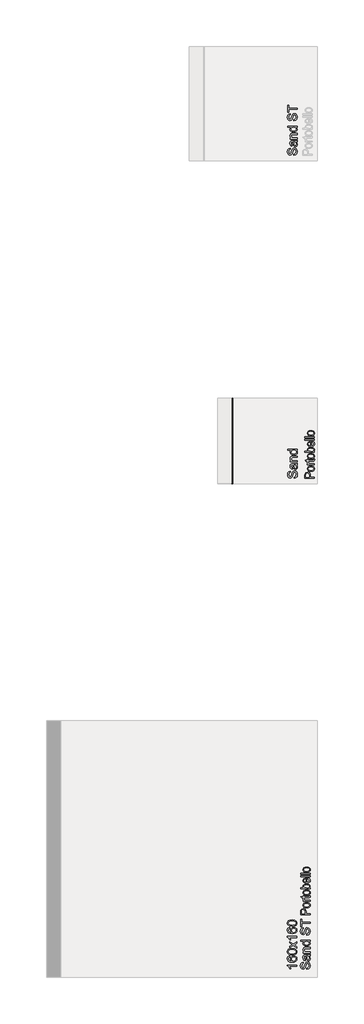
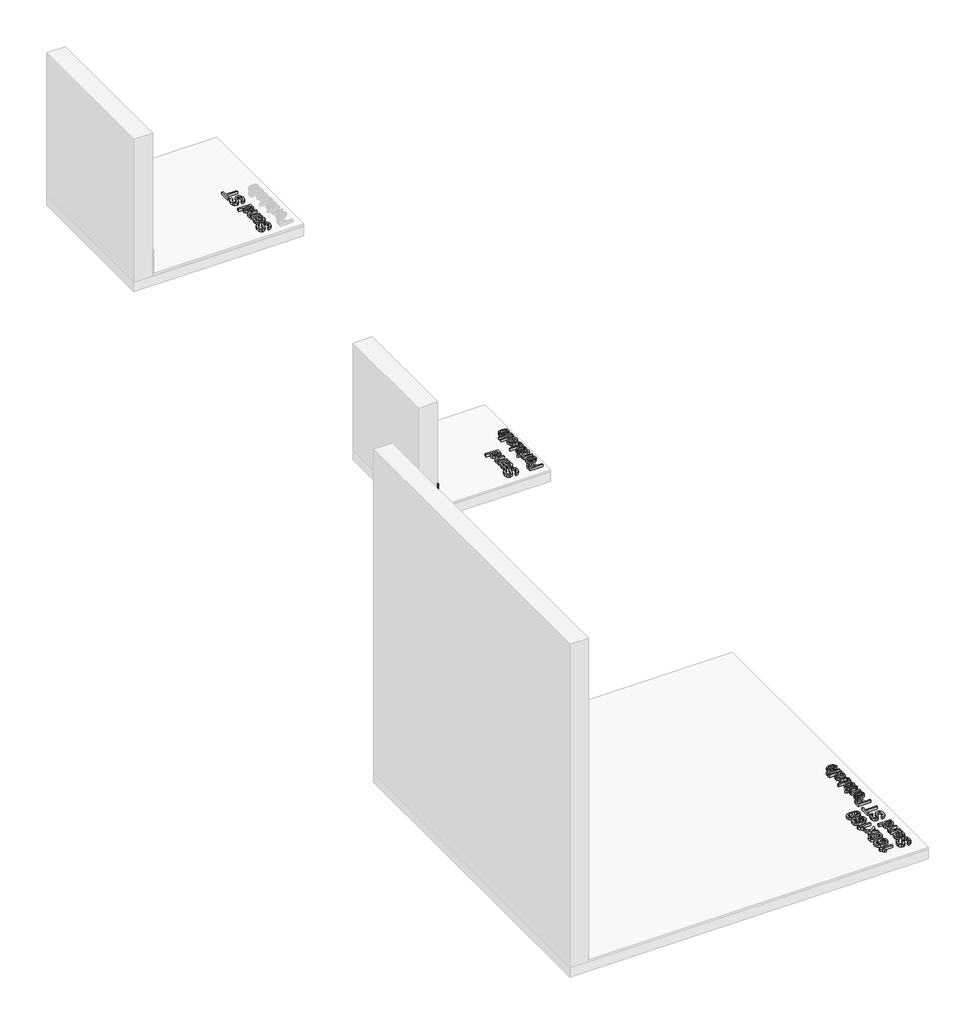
# One storey, part 11 of 19: 7 proxies.
"""IFC4 building model written with IfcOpenShell, lengths in millimetres."""

from ifc_helpers import new_model, si_unit, frame, origin, origin_with_axes, place, context, project, spatial, polyline, outline, extrude, element, save
from ifc_brep_helpers import plane_surface, extruded_surface, spline_curve, advanced_brep

model = new_model("IFC4")

# Units and contexts
model_context = context("Model", 3, world=origin())
ifc_project = project(units=[si_unit("LENGTHUNIT", "METRE", prefix="MILLI")], contexts=[model_context])

# Site, building, storey
site = spatial("IfcSite", under=ifc_project)
building = spatial("IfcBuilding", under=site)
storey = spatial("IfcBuildingStorey", under=building, Name="PORTOBELLO - SHOWROOM", Elevation=0.0)

# Proxies
placement = place(None, origin())
element("IfcBuildingElementProxy", 1, Name="RODAPE KALKS SAND 20X90 NAT RET", ObjectType="RODAPE KALKS SAND 20X90 NAT RET", at=placement, inside=storey, context=model_context, shape_type="AdvancedBrep", body=[
    advanced_brep(
    [(-7194.2033025, 15203.6967801, 217.0), (-7194.2033025, 15203.6967801, 17.0), (-7186.2033025, 15203.6967801, 17.0), (-7186.2033025, 15203.6967801, 209.0), (-7194.2033025, 16103.6967801, 217.0), (-7186.2033025, 16103.6967801, 209.0), (-7186.2033025, 16103.6967801, 17.0), (-7194.2033025, 16103.6967801, 17.0)],
    [
        (0, 1),
        (1, 2),
        (2, 3),
        (3, 0, spline_curve(3, [(-7186.2033025, 15203.6967801, 209.0), (-7186.2033025, 15203.6967801, 214.333333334), (-7188.869969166, 15203.6967801, 217.0), (-7194.2033025, 15203.6967801, 217.0)], [4, 4], [0.0, 0.029527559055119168])),
        (4, 5, spline_curve(3, [(-7194.2033025, 16103.6967801, 217.0), (-7188.869969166, 16103.6967801, 217.0), (-7186.2033025, 16103.6967801, 214.333333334), (-7186.2033025, 16103.6967801, 209.0)], [4, 4], [0.0, 0.029527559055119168])),
        (5, 6),
        (6, 7),
        (7, 4),
        (0, 4),
        (7, 1),
        (6, 2),
        (5, 3),
    ],
    [
        plane_surface(frame((-7394.2033025, 15203.6967801, 17.0), z_axis=(0.0, -1.0, 0.0), x_axis=(0.0, 0.0, 1.0))),
        plane_surface(frame((-7394.2033025, 16103.6967801, 17.0), z_axis=(0.0, 1.0, 0.0), x_axis=(0.0, 0.0, 1.0))),
        plane_surface(frame((-7194.2033025, 15203.6967801, 217.0), z_axis=(-1.0, 0.0, 0.0), x_axis=(0.0, 1.0, 0.0))),
        plane_surface(frame((-7194.2033025, 15203.6967801, 17.0), z_axis=(0.0, 0.0, -1.0), x_axis=(0.0, 1.0, 0.0))),
        plane_surface(frame((-7186.2033025, 15203.6967801, 17.0), z_axis=(1.0, 0.0, 0.0), x_axis=(0.0, 1.0, 0.0))),
        extruded_surface(spline_curve(3, [(-7186.2033025, 16103.6967801, 209.0), (-7186.2033025, 16103.6967801, 214.333333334), (-7188.869969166, 16103.6967801, 217.0), (-7194.2033025, 16103.6967801, 217.0)], [4, 4], [0.0, 0.029527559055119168]), (0.0, -900.0, 0.0), 900.0),
    ],
    [
        (0, [[1, 2, 3, 4]]),
        (1, [[5, 6, 7, 8]]),
        (2, [[-1, 9, -8, 10]]),
        (3, [[-2, -10, -7, 11]]),
        (4, [[-3, -11, -6, 12]]),
        (5, [[-4, -12, -5, -9]]),
    ],
),
])
element("IfcBuildingElementProxy", 2, Name="10mm Arial", ObjectType="10mm Arial", at=placement, inside=storey, context=model_context, shape_type="SweptSolid", body=[
    extrude(outline(polyline([(-6404.3068753, 10087.4843452), (-6404.3068753, 10100.0413839), (-6391.7375738, 10104.0880859), (-6383.7913227, 10113.9718488), (-6380.7624276, 10129.0304851), (-6383.0555587, 10142.1516096), (-6389.3586036, 10150.6251583), (-6397.7831013, 10153.4087987), (-6405.6189878, 10151.3241341), (-6411.3211587, 10142.7892718), (-6416.1158873, 10124.5055366), (-6422.3085676, 10104.8238499), (-6431.6527703, 10094.1430093), (-6444.1362326, 10090.6236049), (-6458.3487404, 10094.9768751), (-6468.3796561, 10107.6933294), (-6471.8009587, 10126.3081584), (-6468.2202406, 10146.1737861), (-6457.6988155, 10159.4175379), (-6441.9779916, 10164.3962076), (-6441.9779916, 10151.8391688), (-6449.4705216, 10149.533775), (-6454.8783869, 10144.7267836), (-6459.2439199, 10126.7986677), (-6454.9274378, 10108.8215009), (-6444.5041146, 10103.1806436), (-6435.7975741, 10107.1782946), (-6428.7832907, 10127.6815845), (-6422.4802459, 10149.901657), (-6412.3021773, 10162.0540256), (-6398.1019323, 10165.9658375), (-6383.0800842, 10161.4654144), (-6372.1172007, 10148.5159682), (-6368.2053888, 10129.5209945), (-6372.4237691, 10107.0924555), (-6385.1279606, 10092.9044732), (-6404.3068753, 10087.4843452)])), origin_with_axes(), (0.0, 0.0, 1.0), 20.0),
    extrude(outline(polyline([(-6379.1927978, 10230.3206612), (-6370.6824609, 10218.1437671), (-6368.2053888, 10204.6915488), (-6369.6953109, 10194.1977149), (-6374.1650772, 10186.4568646), (-6380.9525, 10181.6835957), (-6389.3953918, 10180.0925061), (-6399.3282056, 10182.4960018), (-6406.5386927, 10188.8113094), (-6410.6589711, 10197.603689), (-6412.547432, 10208.4684706), (-6416.8639141, 10230.2470848), (-6419.6598172, 10230.3206612), (-6428.9304435, 10226.8625704), (-6432.5602125, 10212.9811564), (-6430.1444541, 10200.2769649), (-6421.5728036, 10194.2191747), (-6423.1424335, 10181.6621359), (-6435.4051666, 10187.0945267), (-6442.5911283, 10198.0328847), (-6445.1172513, 10214.5998372), (-6442.8854339, 10229.8178891), (-6437.2813648, 10238.414065), (-6428.7587652, 10242.2645633), (-6417.7713563, 10242.8776999), (-6402.1486343, 10242.8776999), (-6380.3332319, 10243.515362), (-6369.7750187, 10246.0169596), (-6369.7750187, 10233.4599208), (-6379.1927978, 10230.3206612)]), holes=[polyline([(-6404.3068753, 10230.3206612), (-6400.4563771, 10210.062626), (-6398.4207634, 10199.259158), (-6395.1098254, 10194.3663275), (-6390.2783086, 10192.6495448), (-6383.4847544, 10196.3896785), (-6380.7624276, 10207.3648247), (-6383.7667972, 10220.0690162), (-6391.038598, 10228.260522), (-6400.7506827, 10230.2470848), (-6404.3068753, 10230.3206612)])]), origin_with_axes(), (0.0, 0.0, 1.0), 20.0),
    extrude(outline(polyline([(-6369.7750187, 10260.1436282), (-6443.5476215, 10260.1436282), (-6443.5476215, 10272.700667), (-6433.2469256, 10272.700667), (-6442.1496699, 10282.3023871), (-6445.1172513, 10295.4112488), (-6442.7260183, 10307.2693118), (-6436.4474989, 10315.3627157), (-6427.2136609, 10319.1273748), (-6415.073555, 10319.7895624), (-6369.7750187, 10319.7895624), (-6369.7750187, 10307.2325236), (-6413.3812978, 10307.2325236), (-6424.4913341, 10305.7855211), (-6430.3651833, 10300.6719614), (-6432.5602125, 10292.0512599), (-6427.6305938, 10278.4273634), (-6420.4875517, 10274.1323411), (-6408.917663, 10272.700667), (-6369.7750187, 10272.700667), (-6369.7750187, 10260.1436282)])), origin_with_axes(), (0.0, 0.0, 1.0), 20.0),
    extrude(outline(polyline([(-6369.7750187, 10382.5747562), (-6381.6208189, 10382.5747562), (-6371.5592464, 10374.2667545), (-6368.2053888, 10362.7827049), (-6373.0614312, 10347.2335592), (-6386.6117513, 10336.2461503), (-6406.5877437, 10332.3466011), (-6426.5759987, 10335.939582), (-6440.3347854, 10346.7062617), (-6445.1172513, 10362.7336539), (-6441.6959487, 10374.3096741), (-6432.8054672, 10382.5747562), (-6470.2313288, 10382.5747562), (-6470.2313288, 10395.131795), (-6369.7750187, 10395.131795), (-6369.7750187, 10382.5747562)]), holes=[polyline([(-6406.6367946, 10344.9036399), (-6395.278438, 10346.3199856), (-6387.2003625, 10350.5690226), (-6382.3719113, 10356.7433088), (-6380.7624276, 10363.9354018), (-6382.2983349, 10371.1244291), (-6386.9060569, 10377.1423654), (-6394.6714327, 10381.2166585), (-6405.6803014, 10382.5747562), (-6417.716174, 10381.1921331), (-6426.0609639, 10377.0442636), (-6430.9354004, 10370.8730431), (-6432.5602125, 10363.420367), (-6430.9997797, 10356.1546976), (-6426.3184813, 10350.2011406), (-6418.2771941, 10346.2280151), (-6406.6367946, 10344.9036399)])]), origin_with_axes(), (0.0, 0.0, 1.0), 20.0),
    extrude(outline(polyline([(-6404.3068753, 10450.0688396), (-6404.3068753, 10462.6258784), (-6391.7375738, 10466.6725803), (-6383.7913227, 10476.5563433), (-6380.7624276, 10491.6149796), (-6383.0555587, 10504.7361041), (-6389.3586036, 10513.2096527), (-6397.7831013, 10515.9932931), (-6405.6189878, 10513.9086285), (-6411.3211587, 10505.3737662), (-6416.1158873, 10487.0900311), (-6422.3085676, 10467.4083443), (-6431.6527703, 10456.7275037), (-6444.1362326, 10453.2080993), (-6458.3487404, 10457.5613696), (-6468.3796561, 10470.2778239), (-6471.8009587, 10488.8926528), (-6468.2202406, 10508.7582806), (-6457.6988155, 10522.0020324), (-6441.9779916, 10526.9807021), (-6441.9779916, 10514.4236633), (-6449.4705216, 10512.1182695), (-6454.8783869, 10507.3112781), (-6459.2439199, 10489.3831622), (-6454.9274378, 10471.4059953), (-6444.5041146, 10465.7651381), (-6435.7975741, 10469.7627891), (-6428.7832907, 10490.2660789), (-6422.4802459, 10512.4861515), (-6412.3021773, 10524.63852), (-6398.1019323, 10528.5503319), (-6383.0800842, 10524.0499088), (-6372.1172007, 10511.1004626), (-6368.2053888, 10492.1054889), (-6372.4237691, 10469.6769499), (-6385.1279606, 10455.4889677), (-6404.3068753, 10450.0688396)])), origin_with_axes(), (0.0, 0.0, 1.0), 20.0),
    extrude(outline(polyline([(-6369.7750187, 10572.4999676), (-6457.6742901, 10572.4999676), (-6457.6742901, 10539.5377408), (-6470.2313288, 10539.5377408), (-6470.2313288, 10618.0192331), (-6457.6742901, 10618.0192331), (-6457.6742901, 10585.0570064), (-6369.7750187, 10585.0570064), (-6369.7750187, 10572.4999676)])), origin_with_axes(), (0.0, 0.0, 1.0), 20.0),
])
element("IfcBuildingElementProxy", 3, Name="10mm Arial", ObjectType="10mm Arial", at=placement, inside=storey, context=model_context, shape_type="SweptSolid", body=[
    extrude(outline(polyline([(-6509.7750187, 10134.5732405), (-6509.7750187, 10122.0162018), (-6588.0603073, 10122.0162018), (-6579.5867586, 10110.1213506), (-6573.2469256, 10096.9021242), (-6585.1172513, 10096.9021242), (-6596.8649497, 10115.3084867), (-6610.2313288, 10126.4798366), (-6610.2313288, 10134.5732405), (-6509.7750187, 10134.5732405)])), origin_with_axes(), (0.0, 0.0, 1.0), 20.0),
    extrude(outline(polyline([(-6583.5476215, 10228.7510313), (-6581.9779916, 10216.1939925), (-6592.4503657, 10211.4360521), (-6597.6742901, 10198.8544878), (-6594.6331322, 10187.5237224), (-6583.2165277, 10178.9520719), (-6560.8370396, 10175.3836165), (-6570.8556926, 10186.4568646), (-6574.1298424, 10200.178863), (-6571.8918936, 10211.7794086), (-6565.1780472, 10221.5160187), (-6554.9202709, 10228.1195005), (-6542.0505324, 10230.3206612), (-6524.7232904, 10226.1758573), (-6512.4605573, 10214.7715155), (-6508.2053888, 10198.3149276), (-6511.0258175, 10184.0686973), (-6519.4871034, 10172.7226034), (-6534.4231124, 10165.3005842), (-6556.6677103, 10162.8265778), (-6581.6775546, 10165.57343), (-6598.7779361, 10173.8139867), (-6607.3679806, 10185.0650444), (-6610.2313288, 10199.6393028), (-6608.4593639, 10210.6573685), (-6603.1434691, 10219.480405), (-6594.7005773, 10225.6608225), (-6583.5476215, 10228.7510313)]), holes=[polyline([(-6542.2467361, 10175.3836165), (-6531.3696918, 10178.2898843), (-6523.4724916, 10186.0154062), (-6520.7624276, 10197.3339089), (-6522.1665106, 10205.6204509), (-6526.3787594, 10212.1350279), (-6533.0006353, 10216.3564738), (-6541.6335995, 10217.7636224), (-6549.9201414, 10216.3748679), (-6556.2385147, 10212.2086043), (-6560.2392314, 10205.5836627), (-6561.5728036, 10196.8188741), (-6556.2385147, 10181.6253477), (-6550.0734256, 10176.9440493), (-6542.2467361, 10175.3836165)])]), origin_with_axes(), (0.0, 0.0, 1.0), 20.0),
    extrude(outline(polyline([(-6559.1938334, 10241.3080701), (-6588.0970955, 10244.9991528), (-6604.7621498, 10255.9620362), (-6610.2313288, 10274.2702968), (-6606.9939673, 10288.9365257), (-6597.6620273, 10299.0655433), (-6582.7995947, 10304.9516552), (-6559.1938334, 10307.2325236), (-6530.4131986, 10303.5782291), (-6513.711356, 10292.6521339), (-6509.5818806, 10284.4207742), (-6508.2053888, 10274.2702968), (-6510.5966218, 10261.2227487), (-6517.7703207, 10251.3144603), (-6534.7603375, 10243.8096676), (-6559.1938334, 10241.3080701)]), holes=[polyline([(-6559.2183588, 10253.8651088), (-6539.4661614, 10255.3366368), (-6528.0342284, 10259.7512208), (-6522.5803778, 10266.3240457), (-6520.7624276, 10274.2702968), (-6522.5865092, 10282.2165479), (-6528.0587538, 10288.7893729), (-6539.4968182, 10293.2039569), (-6559.2183588, 10294.6754848), (-6578.5260322, 10293.2530078), (-6590.04687, 10288.9855766), (-6595.7674351, 10282.4250144), (-6597.6742901, 10274.123144), (-6595.9942956, 10266.2627321), (-6590.9543123, 10259.9474245), (-6578.7161046, 10255.3856878), (-6559.2183588, 10253.8651088)])]), origin_with_axes(), (0.0, 0.0, 1.0), 20.0),
    extrude(outline(polyline([(-6509.7750187, 10313.511043), (-6546.8820493, 10340.3419032), (-6583.5476215, 10315.0806728), (-6583.5476215, 10330.1393092), (-6565.8647602, 10342.328466), (-6557.5506271, 10348.0428996), (-6564.3687068, 10352.9970438), (-6583.5476215, 10366.8784578), (-6583.5476215, 10381.986145), (-6546.8575238, 10355.4495904), (-6509.7750187, 10381.0051264), (-6509.7750187, 10365.9219646), (-6532.0931931, 10350.5199717), (-6536.1889459, 10347.7240685), (-6509.7750187, 10328.6187303), (-6509.7750187, 10313.511043)])), origin_with_axes(), (0.0, 0.0, 1.0), 20.0),
    extrude(outline(polyline([(-6509.7750187, 10435.942171), (-6509.7750187, 10423.3851322), (-6588.0603073, 10423.3851322), (-6579.5867586, 10411.490281), (-6573.2469256, 10398.2710547), (-6585.1172513, 10398.2710547), (-6596.8649497, 10416.6774172), (-6610.2313288, 10427.8487671), (-6610.2313288, 10435.942171), (-6509.7750187, 10435.942171)])), origin_with_axes(), (0.0, 0.0, 1.0), 20.0),
    extrude(outline(polyline([(-6583.5476215, 10530.1199618), (-6581.9779916, 10517.562923), (-6592.4503657, 10512.8049825), (-6597.6742901, 10500.2234183), (-6594.6331322, 10488.8926528), (-6583.2165277, 10480.3210023), (-6560.8370396, 10476.752547), (-6570.8556926, 10487.825795), (-6574.1298424, 10501.5477935), (-6571.8918936, 10513.148339), (-6565.1780472, 10522.8849492), (-6554.9202709, 10529.488431), (-6542.0505324, 10531.6895916), (-6524.7232904, 10527.5447878), (-6512.4605573, 10516.1404459), (-6508.2053888, 10499.683858), (-6511.0258175, 10485.4376278), (-6519.4871034, 10474.0915339), (-6534.4231124, 10466.6695146), (-6556.6677103, 10464.1955082), (-6581.6775546, 10466.9423605), (-6598.7779361, 10475.1829171), (-6607.3679806, 10486.4339748), (-6610.2313288, 10501.0082332), (-6608.4593639, 10512.026299), (-6603.1434691, 10520.8493355), (-6594.7005773, 10527.029753), (-6583.5476215, 10530.1199618)]), holes=[polyline([(-6542.2467361, 10476.752547), (-6531.3696918, 10479.6588148), (-6523.4724916, 10487.3843366), (-6520.7624276, 10498.7028394), (-6522.1665106, 10506.9893813), (-6526.3787594, 10513.5039583), (-6533.0006353, 10517.7254042), (-6541.6335995, 10519.1325528), (-6549.9201414, 10517.7437983), (-6556.2385147, 10513.5775347), (-6560.2392314, 10506.9525931), (-6561.5728036, 10498.1878046), (-6556.2385147, 10482.9942782), (-6550.0734256, 10478.3129798), (-6542.2467361, 10476.752547)])]), origin_with_axes(), (0.0, 0.0, 1.0), 20.0),
    extrude(outline(polyline([(-6559.1938334, 10542.6770005), (-6588.0970955, 10546.3680832), (-6604.7621498, 10557.3309667), (-6610.2313288, 10575.6392273), (-6606.9939673, 10590.3054562), (-6597.6620273, 10600.4344738), (-6582.7995947, 10606.3205857), (-6559.1938334, 10608.6014541), (-6530.4131986, 10604.9471596), (-6513.711356, 10594.0210643), (-6509.5818806, 10585.7897047), (-6508.2053888, 10575.6392273), (-6510.5966218, 10562.5916792), (-6517.7703207, 10552.6833908), (-6534.7603375, 10545.1785981), (-6559.1938334, 10542.6770005)]), holes=[polyline([(-6559.2183588, 10555.2340393), (-6539.4661614, 10556.7055673), (-6528.0342284, 10561.1201512), (-6522.5803778, 10567.6929762), (-6520.7624276, 10575.6392273), (-6522.5865092, 10583.5854784), (-6528.0587538, 10590.1583034), (-6539.4968182, 10594.5728873), (-6559.2183588, 10596.0444153), (-6578.5260322, 10594.6219382), (-6590.04687, 10590.3545071), (-6595.7674351, 10583.7939449), (-6597.6742901, 10575.4920745), (-6595.9942956, 10567.6316625), (-6590.9543123, 10561.3163549), (-6578.7161046, 10556.7546182), (-6559.2183588, 10555.2340393)])]), origin_with_axes(), (0.0, 0.0, 1.0), 20.0),
])
element("IfcBuildingElementProxy", 4, Name="10mm Arial", ObjectType="10mm Arial", at=placement, inside=storey, context=model_context, shape_type="SweptSolid", body=[
    extrude(outline(polyline([(-6541.491456, 18657.8639469), (-6541.491456, 18670.4209856), (-6528.9221544, 18674.4676876), (-6520.9759034, 18684.3514505), (-6517.9470083, 18699.4100868), (-6520.2401394, 18712.5312113), (-6526.5431842, 18721.00476), (-6534.9676819, 18723.7884004), (-6542.8035684, 18721.7037357), (-6548.5057393, 18713.1688735), (-6553.300468, 18694.8851383), (-6559.4931482, 18675.2034516), (-6568.8373509, 18664.522611), (-6581.3208133, 18661.0032065), (-6595.533321, 18665.3564768), (-6605.5642368, 18678.0729311), (-6608.9855393, 18696.6877601), (-6605.4048212, 18716.5533878), (-6594.8833962, 18729.7971396), (-6579.1625723, 18734.7758093), (-6579.1625723, 18722.2187705), (-6586.6551022, 18719.9133767), (-6592.0629676, 18715.1063853), (-6596.4285006, 18697.1782694), (-6592.1120185, 18679.2011026), (-6581.6886953, 18673.5602453), (-6572.9821547, 18677.5578963), (-6565.9678714, 18698.0611862), (-6559.6648265, 18720.2812587), (-6549.486758, 18732.4336273), (-6535.286513, 18736.3454392), (-6520.2646648, 18731.8450161), (-6509.3017814, 18718.8955698), (-6505.3899695, 18699.9005962), (-6509.6083497, 18677.4720572), (-6522.3125413, 18663.2840749), (-6541.491456, 18657.8639469)])), frame((0.0, 0.0, 18.0), z_axis=(0.0, 0.0, 1.0), x_axis=(1.0, 0.0, 0.0)), (0.0, 0.0, 1.0), 20.0),
    extrude(outline(polyline([(-6516.3773784, 18800.7002628), (-6507.8670416, 18788.5233688), (-6505.3899695, 18775.0711505), (-6506.8798916, 18764.5773166), (-6511.3496578, 18756.8364663), (-6518.1370806, 18752.0631974), (-6526.5799724, 18750.4721078), (-6536.5127863, 18752.8756035), (-6543.7232734, 18759.1909111), (-6547.8435517, 18767.9832907), (-6549.7320126, 18778.8480723), (-6554.0484947, 18800.6266864), (-6556.8443979, 18800.7002628), (-6566.1150242, 18797.2421721), (-6569.7447932, 18783.3607581), (-6567.3290347, 18770.6565666), (-6558.7573843, 18764.5987764), (-6560.3270141, 18752.0417376), (-6572.5897473, 18757.4741284), (-6579.7757089, 18768.4124864), (-6582.3018319, 18784.9794389), (-6580.0700145, 18800.1974908), (-6574.4659455, 18808.7936667), (-6565.9433459, 18812.644165), (-6554.955937, 18813.2573016), (-6539.3332149, 18813.2573016), (-6517.5178126, 18813.8949637), (-6506.9595993, 18816.3965613), (-6506.9595993, 18803.8395225), (-6516.3773784, 18800.7002628)]), holes=[polyline([(-6541.491456, 18800.7002628), (-6537.6409577, 18780.4422276), (-6535.605344, 18769.6387597), (-6532.2944061, 18764.7459292), (-6527.4628892, 18763.0291465), (-6520.669335, 18766.7692802), (-6517.9470083, 18777.7444263), (-6520.9513779, 18790.4486179), (-6528.2231787, 18798.6401237), (-6537.9352633, 18800.6266864), (-6541.491456, 18800.7002628)])]), frame((0.0, 0.0, 18.0), z_axis=(0.0, 0.0, 1.0), x_axis=(1.0, 0.0, 0.0)), (0.0, 0.0, 1.0), 20.0),
    extrude(outline(polyline([(-6506.9595993, 18830.5232299), (-6580.7322021, 18830.5232299), (-6580.7322021, 18843.0802687), (-6570.4315062, 18843.0802687), (-6579.3342505, 18852.6819888), (-6582.3018319, 18865.7908505), (-6579.910599, 18877.6489135), (-6573.6320796, 18885.7423174), (-6564.3982415, 18889.5069765), (-6552.2581357, 18890.1691641), (-6506.9595993, 18890.1691641), (-6506.9595993, 18877.6121253), (-6550.5658785, 18877.6121253), (-6561.6759148, 18876.1651228), (-6567.5497639, 18871.0515631), (-6569.7447932, 18862.4308616), (-6564.8151744, 18848.8069651), (-6557.6721324, 18844.5119428), (-6546.1022436, 18843.0802687), (-6506.9595993, 18843.0802687), (-6506.9595993, 18830.5232299)])), frame((0.0, 0.0, 18.0), z_axis=(0.0, 0.0, 1.0), x_axis=(1.0, 0.0, 0.0)), (0.0, 0.0, 1.0), 20.0),
    extrude(outline(polyline([(-6506.9595993, 18952.9543579), (-6518.8053996, 18952.9543579), (-6508.743827, 18944.6463562), (-6505.3899695, 18933.1623066), (-6510.2460118, 18917.6131609), (-6523.796332, 18906.625752), (-6543.7723243, 18902.7262028), (-6563.7605794, 18906.3191837), (-6577.519366, 18917.0858634), (-6582.3018319, 18933.1132556), (-6578.8805294, 18944.6892758), (-6569.9900478, 18952.9543579), (-6607.4159095, 18952.9543579), (-6607.4159095, 18965.5113967), (-6506.9595993, 18965.5113967), (-6506.9595993, 18952.9543579)]), holes=[polyline([(-6543.8213753, 18915.2832416), (-6532.4630187, 18916.6995873), (-6524.3849432, 18920.9486243), (-6519.556492, 18927.1229105), (-6517.9470083, 18934.3150035), (-6519.4829156, 18941.5040308), (-6524.0906376, 18947.5219671), (-6531.8560134, 18951.5962602), (-6542.8648821, 18952.9543579), (-6554.9007547, 18951.5717347), (-6563.2455446, 18947.4238653), (-6568.119981, 18941.2526448), (-6569.7447932, 18933.7999687), (-6568.1843604, 18926.5342993), (-6563.503062, 18920.5807423), (-6555.4617747, 18916.6076168), (-6543.8213753, 18915.2832416)])]), frame((0.0, 0.0, 18.0), z_axis=(0.0, 0.0, 1.0), x_axis=(1.0, 0.0, 0.0)), (0.0, 0.0, 1.0), 20.0),
    extrude(outline(polyline([(-6541.491456, 19020.4484413), (-6541.491456, 19033.0054801), (-6528.9221544, 19037.052182), (-6520.9759034, 19046.9359449), (-6517.9470083, 19061.9945813), (-6520.2401394, 19075.1157058), (-6526.5431842, 19083.5892544), (-6534.9676819, 19086.3728948), (-6542.8035684, 19084.2882302), (-6548.5057393, 19075.7533679), (-6553.300468, 19057.4696327), (-6559.4931482, 19037.787946), (-6568.8373509, 19027.1071054), (-6581.3208133, 19023.587701), (-6595.533321, 19027.9409713), (-6605.5642368, 19040.6574256), (-6608.9855393, 19059.2722545), (-6605.4048212, 19079.1378823), (-6594.8833962, 19092.3816341), (-6579.1625723, 19097.3603038), (-6579.1625723, 19084.803265), (-6586.6551022, 19082.4978711), (-6592.0629676, 19077.6908797), (-6596.4285006, 19059.7627638), (-6592.1120185, 19041.785597), (-6581.6886953, 19036.1447398), (-6572.9821547, 19040.1423908), (-6565.9678714, 19060.6456806), (-6559.6648265, 19082.8657531), (-6549.486758, 19095.0181217), (-6535.286513, 19098.9299336), (-6520.2646648, 19094.4295105), (-6509.3017814, 19081.4800643), (-6505.3899695, 19062.4850906), (-6509.6083497, 19040.0565516), (-6522.3125413, 19025.8685694), (-6541.491456, 19020.4484413)])), frame((0.0, 0.0, 18.0), z_axis=(0.0, 0.0, 1.0), x_axis=(1.0, 0.0, 0.0)), (0.0, 0.0, 1.0), 20.0),
    extrude(outline(polyline([(-6506.9595993, 19142.8795693), (-6594.8588707, 19142.8795693), (-6594.8588707, 19109.9173425), (-6607.4159095, 19109.9173425), (-6607.4159095, 19188.3988348), (-6594.8588707, 19188.3988348), (-6594.8588707, 19155.4366081), (-6506.9595993, 19155.4366081), (-6506.9595993, 19142.8795693)])), frame((0.0, 0.0, 18.0), z_axis=(0.0, 0.0, 1.0), x_axis=(1.0, 0.0, 0.0)), (0.0, 0.0, 1.0), 20.0),
])
element("IfcBuildingElementProxy", 5, Name="10mm Arial", ObjectType="10mm Arial", at=placement, inside=storey, context=model_context, shape_type="SweptSolid", body=[
    extrude(outline(polyline([(-6538.7351592, 15257.8639469), (-6538.7351592, 15270.4209856), (-6526.1658577, 15274.4676876), (-6518.2196066, 15284.3514505), (-6515.1907115, 15299.4100868), (-6517.4838426, 15312.5312113), (-6523.7868874, 15321.00476), (-6532.2113851, 15323.7884004), (-6540.0472716, 15321.7037357), (-6545.7494425, 15313.1688735), (-6550.5441712, 15294.8851383), (-6556.7368515, 15275.2034516), (-6566.0810541, 15264.522611), (-6578.5645165, 15261.0032065), (-6592.7770243, 15265.3564768), (-6602.80794, 15278.0729311), (-6606.2292425, 15296.6877601), (-6602.6485245, 15316.5533878), (-6592.1270994, 15329.7971396), (-6576.4062755, 15334.7758093), (-6576.4062755, 15322.2187705), (-6583.8988054, 15319.9133767), (-6589.3066708, 15315.1063853), (-6593.6722038, 15297.1782694), (-6589.3557217, 15279.2011026), (-6578.9323985, 15273.5602453), (-6570.2258579, 15277.5578963), (-6563.2115746, 15298.0611862), (-6556.9085297, 15320.2812587), (-6546.7304612, 15332.4336273), (-6532.5302162, 15336.3454392), (-6517.508368, 15331.8450161), (-6506.5454846, 15318.8955698), (-6502.6336727, 15299.9005962), (-6506.8520529, 15277.4720572), (-6519.5562445, 15263.2840749), (-6538.7351592, 15257.8639469)])), frame((0.0, 0.0, 17.0), z_axis=(0.0, 0.0, 1.0), x_axis=(1.0, 0.0, 0.0)), (0.0, 0.0, 1.0), 20.0),
    extrude(outline(polyline([(-6513.6210816, 15400.7002628), (-6505.1107448, 15388.5233688), (-6502.6336727, 15375.0711505), (-6504.1235948, 15364.5773166), (-6508.593361, 15356.8364663), (-6515.3807838, 15352.0631974), (-6523.8236756, 15350.4721078), (-6533.7564895, 15352.8756035), (-6540.9669766, 15359.1909111), (-6545.0872549, 15367.9832907), (-6546.9757159, 15378.8480723), (-6551.2921979, 15400.6266864), (-6554.0881011, 15400.7002628), (-6563.3587274, 15397.2421721), (-6566.9884964, 15383.3607581), (-6564.572738, 15370.6565666), (-6556.0010875, 15364.5987764), (-6557.5707173, 15352.0417376), (-6569.8334505, 15357.4741284), (-6577.0194121, 15368.4124864), (-6579.5455352, 15384.9794389), (-6577.3137177, 15400.1974908), (-6571.7096487, 15408.7936667), (-6563.1870491, 15412.644165), (-6552.1996402, 15413.2573016), (-6536.5769181, 15413.2573016), (-6514.7615158, 15413.8949637), (-6504.2033025, 15416.3965613), (-6504.2033025, 15403.8395225), (-6513.6210816, 15400.7002628)]), holes=[polyline([(-6538.7351592, 15400.7002628), (-6534.8846609, 15380.4422276), (-6532.8490472, 15369.6387597), (-6529.5381093, 15364.7459292), (-6524.7065924, 15363.0291465), (-6517.9130382, 15366.7692802), (-6515.1907115, 15377.7444263), (-6518.1950811, 15390.4486179), (-6525.4668819, 15398.6401237), (-6535.1789665, 15400.6266864), (-6538.7351592, 15400.7002628)])]), frame((0.0, 0.0, 17.0), z_axis=(0.0, 0.0, 1.0), x_axis=(1.0, 0.0, 0.0)), (0.0, 0.0, 1.0), 20.0),
    extrude(outline(polyline([(-6504.2033025, 15430.5232299), (-6577.9759053, 15430.5232299), (-6577.9759053, 15443.0802687), (-6567.6752094, 15443.0802687), (-6576.5779537, 15452.6819888), (-6579.5455352, 15465.7908505), (-6577.1543022, 15477.6489135), (-6570.8757828, 15485.7423174), (-6561.6419447, 15489.5069765), (-6549.5018389, 15490.1691641), (-6504.2033025, 15490.1691641), (-6504.2033025, 15477.6121253), (-6547.8095817, 15477.6121253), (-6558.919618, 15476.1651228), (-6564.7934672, 15471.0515631), (-6566.9884964, 15462.4308616), (-6562.0588777, 15448.8069651), (-6554.9158356, 15444.5119428), (-6543.3459468, 15443.0802687), (-6504.2033025, 15443.0802687), (-6504.2033025, 15430.5232299)])), frame((0.0, 0.0, 17.0), z_axis=(0.0, 0.0, 1.0), x_axis=(1.0, 0.0, 0.0)), (0.0, 0.0, 1.0), 20.0),
    extrude(outline(polyline([(-6504.2033025, 15552.9543579), (-6516.0491028, 15552.9543579), (-6505.9875302, 15544.6463562), (-6502.6336727, 15533.1623066), (-6507.489715, 15517.6131609), (-6521.0400352, 15506.625752), (-6541.0160275, 15502.7262028), (-6561.0042826, 15506.3191837), (-6574.7630692, 15517.0858634), (-6579.5455352, 15533.1132556), (-6576.1242326, 15544.6892758), (-6567.2337511, 15552.9543579), (-6604.6596127, 15552.9543579), (-6604.6596127, 15565.5113967), (-6504.2033025, 15565.5113967), (-6504.2033025, 15552.9543579)]), holes=[polyline([(-6541.0650785, 15515.2832416), (-6529.7067219, 15516.6995873), (-6521.6286464, 15520.9486243), (-6516.8001952, 15527.1229105), (-6515.1907115, 15534.3150035), (-6516.7266188, 15541.5040308), (-6521.3343408, 15547.5219671), (-6529.0997166, 15551.5962602), (-6540.1085853, 15552.9543579), (-6552.1444579, 15551.5717347), (-6560.4892478, 15547.4238653), (-6565.3636842, 15541.2526448), (-6566.9884964, 15533.7999687), (-6565.4280636, 15526.5342993), (-6560.7467652, 15520.5807423), (-6552.7054779, 15516.6076168), (-6541.0650785, 15515.2832416)])]), frame((0.0, 0.0, 17.0), z_axis=(0.0, 0.0, 1.0), x_axis=(1.0, 0.0, 0.0)), (0.0, 0.0, 1.0), 20.0),
])
element("IfcBuildingElementProxy", 6, Name="10mm Arial Narrow", ObjectType="10mm Arial Narrow", at=placement, inside=storey, context=model_context, shape_type="SweptSolid", body=[
    extrude(outline(polyline([(-6369.7750187, 10664.5071343), (-6470.4936224, 10664.5071343), (-6470.4936224, 10695.804019), (-6468.6153017, 10712.0997205), (-6459.1348585, 10723.5727066), (-6442.1157497, 10727.8623851), (-6430.0399242, 10726.0760767), (-6420.4135304, 10720.7171515), (-6414.112272, 10710.9733626), (-6412.0118525, 10696.0324634), (-6412.0118525, 10674.254096), (-6369.7750187, 10674.254096), (-6369.7750187, 10664.5071343)]), holes=[polyline([(-6423.3833078, 10674.254096), (-6423.3833078, 10697.2254509), (-6427.914122, 10713.0896463), (-6441.5827127, 10718.1154234), (-6451.7484892, 10715.6406089), (-6457.548439, 10709.6629801), (-6459.1221672, 10696.9970065), (-6459.1221672, 10674.254096), (-6423.3833078, 10674.254096)])]), origin_with_axes(), (0.0, 0.0, 1.0), 20.0),
    extrude(outline(polyline([(-6406.3261249, 10735.9848531), (-6422.9169004, 10737.939322), (-6434.8689853, 10743.8027286), (-6442.0935398, 10752.6612953), (-6444.5017247, 10763.6012445), (-6442.0935398, 10774.4142801), (-6434.8689853, 10783.2982295), (-6423.1072708, 10789.2377842), (-6407.0876063, 10791.2176358), (-6389.9257197, 10789.2726855), (-6377.7832645, 10783.4378344), (-6370.5587099, 10774.5887862), (-6368.1505251, 10763.6012445), (-6370.5650556, 10752.7406163), (-6377.8086472, 10743.8661854), (-6389.7670777, 10737.9551862), (-6406.3261249, 10735.9848531)]), holes=[polyline([(-6406.3515076, 10745.7318148), (-6393.7997562, 10747.0358516), (-6384.9284981, 10750.9479622), (-6379.6552396, 10756.789159), (-6377.8974867, 10763.8804543), (-6379.6711038, 10770.6005275), (-6384.9919549, 10776.2926008), (-6393.8790772, 10780.1761558), (-6406.3515076, 10781.4706742), (-6418.8651849, 10780.1666373), (-6427.7237516, 10776.2545267), (-6432.9970102, 10770.41333), (-6434.754763, 10763.3220346), (-6432.9874917, 10756.5543689), (-6427.6856776, 10750.8718141), (-6418.8175923, 10747.0168146), (-6406.3515076, 10745.7318148)])]), origin_with_axes(), (0.0, 0.0, 1.0), 20.0),
    extrude(outline(polyline([(-6377.8974867, 10862.6953546), (-6368.1505251, 10864.3198482), (-6368.1505251, 10856.9588616), (-6370.2699816, 10848.6840972), (-6376.0699314, 10844.3690361), (-6390.7157566, 10843.2014313), (-6433.1302694, 10843.2014313), (-6433.1302694, 10835.0789633), (-6436.3792567, 10835.0789633), (-6431.5057758, 10833.4544697), (-6433.1302694, 10825.8904213), (-6430.8077512, 10819.8112616), (-6424.3224681, 10815.9403979), (-6408.9151616, 10813.9605463), (-6369.7750187, 10813.9605463), (-6369.7750187, 10804.2135847), (-6442.8772311, 10804.2135847), (-6442.8772311, 10813.9605463), (-6433.1810349, 10813.9605463), (-6442.268046, 10820.2046937), (-6444.5017247, 10826.6011372), (-6442.8772311, 10835.0789633), (-6442.8772311, 10843.2014313), (-6459.1221672, 10843.2014313), (-6467.2446352, 10852.948393), (-6442.8772311, 10852.948393), (-6442.8772311, 10862.6953546), (-6433.1302694, 10862.6953546), (-6433.1302694, 10852.948393), (-6388.4820779, 10852.948393), (-6380.4865234, 10853.8114052), (-6377.8974867, 10858.4310589), (-6377.8974867, 10862.6953546)])), origin_with_axes(), (0.0, 0.0, 1.0), 20.0),
    extrude(outline(polyline([(-6406.3261249, 10869.193329), (-6422.9169004, 10871.1477979), (-6434.8689853, 10877.0112045), (-6442.0935398, 10885.8697713), (-6444.5017247, 10896.8097204), (-6442.0935398, 10907.622756), (-6434.8689853, 10916.5067054), (-6423.1072708, 10922.4462602), (-6407.0876063, 10924.4261118), (-6389.9257197, 10922.4811614), (-6377.7832645, 10916.6463103), (-6370.5587099, 10907.7972621), (-6368.1505251, 10896.8097204), (-6370.5650556, 10885.9490922), (-6377.8086472, 10877.0746613), (-6389.7670777, 10871.1636621), (-6406.3261249, 10869.193329)]), holes=[polyline([(-6406.3515076, 10878.9402907), (-6393.7997562, 10880.2443276), (-6384.9284981, 10884.1564381), (-6379.6552396, 10889.9976349), (-6377.8974867, 10897.0889302), (-6379.6711038, 10903.8090034), (-6384.9919549, 10909.5010767), (-6393.8790772, 10913.3846318), (-6406.3515076, 10914.6791501), (-6418.8651849, 10913.3751132), (-6427.7237516, 10909.4630027), (-6432.9970102, 10903.6218059), (-6434.754763, 10896.5305106), (-6432.9874917, 10889.7628448), (-6427.6856776, 10884.08029), (-6418.8175923, 10880.2252905), (-6406.3515076, 10878.9402907)])]), origin_with_axes(), (0.0, 0.0, 1.0), 20.0),
    extrude(outline(polyline([(-6369.7750187, 10947.1690223), (-6369.7750187, 10937.4220606), (-6470.4936224, 10937.4220606), (-6470.4936224, 10947.1690223), (-6435.0847383, 10947.1690223), (-6442.1665151, 10954.568083), (-6444.5017247, 10963.7693163), (-6440.3008858, 10976.651043), (-6427.5714554, 10985.9284245), (-6406.8845446, 10989.4058561), (-6390.4302011, 10987.4735971), (-6378.227462, 10981.6768201), (-6370.6697593, 10973.3036978), (-6368.1505251, 10963.6424028), (-6370.7649445, 10954.3015645), (-6378.5320545, 10947.1690223), (-6369.7750187, 10947.1690223)]), holes=[polyline([(-6406.8845446, 10947.1690223), (-6389.6369913, 10949.2504047), (-6380.9053382, 10955.139194), (-6377.8974867, 10963.5916374), (-6379.686968, 10969.534365), (-6385.0554117, 10974.7727223), (-6406.4784212, 10979.6588945), (-6427.914122, 10974.9504013), (-6433.0446028, 10969.7056983), (-6434.754763, 10963.3885757), (-6432.9652818, 10957.4109468), (-6427.5968381, 10952.1186512), (-6406.8845446, 10947.1690223)])]), origin_with_axes(), (0.0, 0.0, 1.0), 20.0),
    extrude(outline(polyline([(-6392.5179292, 11041.3896516), (-6390.8934356, 11051.1366132), (-6381.006869, 11047.4370829), (-6373.8870181, 11041.618096), (-6369.5846483, 11033.9144427), (-6368.1505251, 11024.5609131), (-6370.5650556, 11012.9673591), (-6377.8086472, 11003.8232369), (-6389.6147815, 10997.8836821), (-6405.7169398, 10995.9038305), (-6422.3838635, 10997.8932006), (-6434.5643927, 11003.861311), (-6442.0173917, 11012.8753468), (-6444.5017247, 11024.0024934), (-6442.1030584, 11034.6854426), (-6434.9070593, 11043.43296), (-6423.1675547, 11049.267811), (-6407.1383717, 11051.2127614), (-6403.8893845, 11051.1366132), (-6403.8893845, 11005.6507922), (-6384.4462266, 11011.6538037), (-6379.5346717, 11017.58384), (-6377.8974867, 11024.6878267), (-6381.5525974, 11034.8662944), (-6392.5179292, 11041.3896516)]), holes=[polyline([(-6413.6363461, 11006.3107427), (-6413.6363461, 11041.3896516), (-6427.9014306, 11037.1253559), (-6433.0414299, 11031.3000233), (-6434.754763, 11024.0786416), (-6429.0436527, 11011.8695568), (-6413.6363461, 11006.3107427)])]), origin_with_axes(), (0.0, 0.0, 1.0), 20.0),
    extrude(outline(polyline([(-6369.7750187, 11064.1325621), (-6470.4936224, 11064.1325621), (-6470.4936224, 11073.8795238), (-6369.7750187, 11073.8795238), (-6369.7750187, 11064.1325621)])), origin_with_axes(), (0.0, 0.0, 1.0), 20.0),
    extrude(outline(polyline([(-6369.7750187, 11090.1244599), (-6470.4936224, 11090.1244599), (-6470.4936224, 11099.8714215), (-6369.7750187, 11099.8714215), (-6369.7750187, 11090.1244599)])), origin_with_axes(), (0.0, 0.0, 1.0), 20.0),
    extrude(outline(polyline([(-6406.3261249, 11111.2428768), (-6422.9169004, 11113.1973456), (-6434.8689853, 11119.0607523), (-6442.0935398, 11127.919319), (-6444.5017247, 11138.8592681), (-6442.0935398, 11149.6723037), (-6434.8689853, 11158.5562531), (-6423.1072708, 11164.4958079), (-6407.0876063, 11166.4756595), (-6389.9257197, 11164.5307091), (-6377.7832645, 11158.6958581), (-6370.5587099, 11149.8468099), (-6368.1505251, 11138.8592681), (-6370.5650556, 11127.99864), (-6377.8086472, 11119.1242091), (-6389.7670777, 11113.2132098), (-6406.3261249, 11111.2428768)]), holes=[polyline([(-6406.3515076, 11120.9898384), (-6393.7997562, 11122.2938753), (-6384.9284981, 11126.2059859), (-6379.6552396, 11132.0471826), (-6377.8974867, 11139.138478), (-6379.6711038, 11145.8585511), (-6384.9919549, 11151.5506244), (-6393.8790772, 11155.4341795), (-6406.3515076, 11156.7286978), (-6418.8651849, 11155.424661), (-6427.7237516, 11151.5125504), (-6432.9970102, 11145.6713536), (-6434.754763, 11138.5800583), (-6432.9874917, 11131.8123925), (-6427.6856776, 11126.1298377), (-6418.8175923, 11122.2748383), (-6406.3515076, 11120.9898384)])]), origin_with_axes(), (0.0, 0.0, 1.0), 20.0),
])
element("IfcBuildingElementProxy", 7, Name="10mm Arial Narrow", ObjectType="10mm Arial Narrow", at=placement, inside=storey, context=model_context, shape_type="SweptSolid", body=[
    extrude(outline(polyline([(-6324.2033025, 15259.7078955), (-6424.9219063, 15259.7078955), (-6424.9219063, 15291.0047802), (-6423.0435856, 15307.3004817), (-6413.5631424, 15318.7734678), (-6396.5440336, 15323.0631463), (-6384.468208, 15321.2768379), (-6374.8418143, 15315.9179127), (-6368.5405558, 15306.1741238), (-6366.4401364, 15291.2332246), (-6366.4401364, 15269.4548572), (-6324.2033025, 15269.4548572), (-6324.2033025, 15259.7078955)]), holes=[polyline([(-6377.8115916, 15269.4548572), (-6377.8115916, 15292.4262121), (-6382.3424058, 15308.2904075), (-6396.0109966, 15313.3161846), (-6406.176773, 15310.8413701), (-6411.9767229, 15304.8637413), (-6413.550451, 15292.1977677), (-6413.550451, 15269.4548572), (-6377.8115916, 15269.4548572)])]), frame((0.0, 0.0, 17.0), z_axis=(0.0, 0.0, 1.0), x_axis=(1.0, 0.0, 0.0)), (0.0, 0.0, 1.0), 20.0),
    extrude(outline(polyline([(-6360.7544087, 15331.1856143), (-6377.3451843, 15333.1400832), (-6389.2972691, 15339.0034898), (-6396.5218237, 15347.8620565), (-6398.9300086, 15358.8020057), (-6396.5218237, 15369.6150412), (-6389.2972691, 15378.4989907), (-6377.5355546, 15384.4385454), (-6361.5158901, 15386.418397), (-6344.3540035, 15384.4734466), (-6332.2115484, 15378.6385956), (-6324.9869938, 15369.7895474), (-6322.5788089, 15358.8020057), (-6324.9933395, 15347.9413775), (-6332.2369311, 15339.0669466), (-6344.1953616, 15333.1559474), (-6360.7544087, 15331.1856143)]), holes=[polyline([(-6360.7797915, 15340.932576), (-6348.2280401, 15342.2366128), (-6339.356782, 15346.1487234), (-6334.0835234, 15351.9899201), (-6332.3257706, 15359.0812155), (-6334.0993876, 15365.8012887), (-6339.4202388, 15371.493362), (-6348.307361, 15375.376917), (-6360.7797915, 15376.6714354), (-6373.2934688, 15375.3673985), (-6382.1520355, 15371.4552879), (-6387.4252941, 15365.6140912), (-6389.1830469, 15358.5227958), (-6387.4157755, 15351.7551301), (-6382.1139614, 15346.0725753), (-6373.2458762, 15342.2175758), (-6360.7797915, 15340.932576)])]), frame((0.0, 0.0, 17.0), z_axis=(0.0, 0.0, 1.0), x_axis=(1.0, 0.0, 0.0)), (0.0, 0.0, 1.0), 20.0),
    extrude(outline(polyline([(-6332.3257706, 15457.8961158), (-6322.5788089, 15459.5206094), (-6322.5788089, 15452.1596227), (-6324.6982654, 15443.8848584), (-6330.4982153, 15439.5697973), (-6345.1440405, 15438.4021925), (-6387.5585533, 15438.4021925), (-6387.5585533, 15430.2797244), (-6390.8075405, 15430.2797244), (-6385.9340597, 15428.6552308), (-6387.5585533, 15421.0911825), (-6385.2360351, 15415.0120228), (-6378.750752, 15411.1411591), (-6363.3434454, 15409.1613075), (-6324.2033025, 15409.1613075), (-6324.2033025, 15399.4143459), (-6397.3055149, 15399.4143459), (-6397.3055149, 15409.1613075), (-6387.6093187, 15409.1613075), (-6396.6963298, 15415.4054548), (-6398.9300086, 15421.8018984), (-6397.3055149, 15430.2797244), (-6397.3055149, 15438.4021925), (-6413.550451, 15438.4021925), (-6421.6729191, 15448.1491541), (-6397.3055149, 15448.1491541), (-6397.3055149, 15457.8961158), (-6387.5585533, 15457.8961158), (-6387.5585533, 15448.1491541), (-6342.9103618, 15448.1491541), (-6334.9148073, 15449.0121664), (-6332.3257706, 15453.6318201), (-6332.3257706, 15457.8961158)])), frame((0.0, 0.0, 17.0), z_axis=(0.0, 0.0, 1.0), x_axis=(1.0, 0.0, 0.0)), (0.0, 0.0, 1.0), 20.0),
    extrude(outline(polyline([(-6360.7544087, 15464.3940902), (-6377.3451843, 15466.3485591), (-6389.2972691, 15472.2119657), (-6396.5218237, 15481.0705324), (-6398.9300086, 15492.0104816), (-6396.5218237, 15502.8235172), (-6389.2972691, 15511.7074666), (-6377.5355546, 15517.6470214), (-6361.5158901, 15519.6268729), (-6344.3540035, 15517.6819226), (-6332.2115484, 15511.8470715), (-6324.9869938, 15502.9980233), (-6322.5788089, 15492.0104816), (-6324.9933395, 15481.1498534), (-6332.2369311, 15472.2754225), (-6344.1953616, 15466.3644233), (-6360.7544087, 15464.3940902)]), holes=[polyline([(-6360.7797915, 15474.1410519), (-6348.2280401, 15475.4450887), (-6339.356782, 15479.3571993), (-6334.0835234, 15485.1983961), (-6332.3257706, 15492.2896914), (-6334.0993876, 15499.0097646), (-6339.4202388, 15504.7018379), (-6348.307361, 15508.5853929), (-6360.7797915, 15509.8799113), (-6373.2934688, 15508.5758744), (-6382.1520355, 15504.6637638), (-6387.4252941, 15498.8225671), (-6389.1830469, 15491.7312717), (-6387.4157755, 15484.963606), (-6382.1139614, 15479.2810512), (-6373.2458762, 15475.4260517), (-6360.7797915, 15474.1410519)])]), frame((0.0, 0.0, 17.0), z_axis=(0.0, 0.0, 1.0), x_axis=(1.0, 0.0, 0.0)), (0.0, 0.0, 1.0), 20.0),
    extrude(outline(polyline([(-6324.2033025, 15542.3697835), (-6324.2033025, 15532.6228218), (-6424.9219063, 15532.6228218), (-6424.9219063, 15542.3697835), (-6389.5130222, 15542.3697835), (-6396.594799, 15549.7688442), (-6398.9300086, 15558.9700775), (-6394.7291696, 15571.8518042), (-6381.9997392, 15581.1291857), (-6361.3128284, 15584.6066173), (-6344.858485, 15582.6743583), (-6332.6557459, 15576.8775813), (-6325.0980432, 15568.504459), (-6322.5788089, 15558.843164), (-6325.1932283, 15549.5023257), (-6332.9603384, 15542.3697835), (-6324.2033025, 15542.3697835)]), holes=[polyline([(-6361.3128284, 15542.3697835), (-6344.0652752, 15544.4511659), (-6335.333622, 15550.3399552), (-6332.3257706, 15558.7923985), (-6334.1152518, 15564.7351261), (-6339.4836956, 15569.9734835), (-6360.906705, 15574.8596556), (-6382.3424058, 15570.1511624), (-6387.4728866, 15564.9064594), (-6389.1830469, 15558.5893368), (-6387.3935657, 15552.611708), (-6382.0251219, 15547.3194124), (-6361.3128284, 15542.3697835)])]), frame((0.0, 0.0, 17.0), z_axis=(0.0, 0.0, 1.0), x_axis=(1.0, 0.0, 0.0)), (0.0, 0.0, 1.0), 20.0),
    extrude(outline(polyline([(-6346.9462131, 15636.5904128), (-6345.3217195, 15646.3373744), (-6335.4351529, 15642.6378441), (-6328.315302, 15636.8188572), (-6324.0129322, 15629.1152039), (-6322.5788089, 15619.7616743), (-6324.9933395, 15608.1681203), (-6332.2369311, 15599.0239981), (-6344.0430653, 15593.0844433), (-6360.1452236, 15591.1045917), (-6376.8121473, 15593.0939618), (-6388.9926766, 15599.0620721), (-6396.4456756, 15608.076108), (-6398.9300086, 15619.2032546), (-6396.5313422, 15629.8862038), (-6389.3353432, 15638.6337211), (-6377.5958386, 15644.4685722), (-6361.5666556, 15646.4135226), (-6358.3176683, 15646.3373744), (-6358.3176683, 15600.8515534), (-6338.8745105, 15606.8545649), (-6333.9629556, 15612.7846012), (-6332.3257706, 15619.8885879), (-6335.9808812, 15630.0670556), (-6346.9462131, 15636.5904128)]), holes=[polyline([(-6368.06463, 15601.5115039), (-6368.06463, 15636.5904128), (-6382.3297145, 15632.3261171), (-6387.4697138, 15626.5007845), (-6389.1830469, 15619.2794028), (-6383.4719366, 15607.070318), (-6368.06463, 15601.5115039)])]), frame((0.0, 0.0, 17.0), z_axis=(0.0, 0.0, 1.0), x_axis=(1.0, 0.0, 0.0)), (0.0, 0.0, 1.0), 20.0),
    extrude(outline(polyline([(-6324.2033025, 15659.3333233), (-6424.9219063, 15659.3333233), (-6424.9219063, 15669.080285), (-6324.2033025, 15669.080285), (-6324.2033025, 15659.3333233)])), frame((0.0, 0.0, 17.0), z_axis=(0.0, 0.0, 1.0), x_axis=(1.0, 0.0, 0.0)), (0.0, 0.0, 1.0), 20.0),
    extrude(outline(polyline([(-6324.2033025, 15685.325221), (-6424.9219063, 15685.325221), (-6424.9219063, 15695.0721827), (-6324.2033025, 15695.0721827), (-6324.2033025, 15685.325221)])), frame((0.0, 0.0, 17.0), z_axis=(0.0, 0.0, 1.0), x_axis=(1.0, 0.0, 0.0)), (0.0, 0.0, 1.0), 20.0),
    extrude(outline(polyline([(-6360.7544087, 15706.443638), (-6377.3451843, 15708.3981068), (-6389.2972691, 15714.2615135), (-6396.5218237, 15723.1200802), (-6398.9300086, 15734.0600293), (-6396.5218237, 15744.8730649), (-6389.2972691, 15753.7570143), (-6377.5355546, 15759.6965691), (-6361.5158901, 15761.6764207), (-6344.3540035, 15759.7314703), (-6332.2115484, 15753.8966192), (-6324.9869938, 15745.047571), (-6322.5788089, 15734.0600293), (-6324.9933395, 15723.1994011), (-6332.2369311, 15714.3249702), (-6344.1953616, 15708.413971), (-6360.7544087, 15706.443638)]), holes=[polyline([(-6360.7797915, 15716.1905996), (-6348.2280401, 15717.4946365), (-6339.356782, 15721.4067471), (-6334.0835234, 15727.2479438), (-6332.3257706, 15734.3392392), (-6334.0993876, 15741.0593123), (-6339.4202388, 15746.7513856), (-6348.307361, 15750.6349407), (-6360.7797915, 15751.929459), (-6373.2934688, 15750.6254222), (-6382.1520355, 15746.7133116), (-6387.4252941, 15740.8721148), (-6389.1830469, 15733.7808195), (-6387.4157755, 15727.0131537), (-6382.1139614, 15721.3305989), (-6373.2458762, 15717.4755994), (-6360.7797915, 15716.1905996)])]), frame((0.0, 0.0, 17.0), z_axis=(0.0, 0.0, 1.0), x_axis=(1.0, 0.0, 0.0)), (0.0, 0.0, 1.0), 20.0),
])

save(model, "model.ifc")
